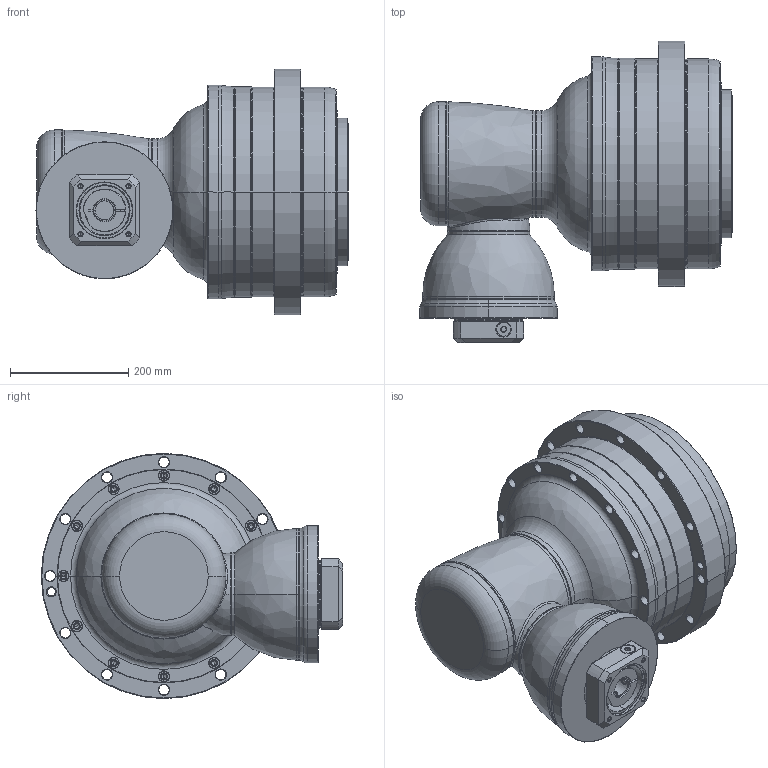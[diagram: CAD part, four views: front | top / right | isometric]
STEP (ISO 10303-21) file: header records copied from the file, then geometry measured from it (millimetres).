
FILE_DESCRIPTION((''),'2;1');
FILE_NAME('AHKA355_3ST_32-P0409700101_ASM','2016-12-06T',('d01943'),(''),'PRO/ENGINEER BY PARAMETRIC TECHNOLOGY CORPORATION, 2008410','PRO/ENGINEER BY PARAMETRIC TECHNOLOGY CORPORATION, 2008410','');
FILE_SCHEMA(('CONFIG_CONTROL_DESIGN'));
Length unit declared in the file: millimetre
Products named in the file (12): P1008600002; P1821100001; P0276100003; P0357100003; P1315600001; P1007600001; P1318600001; P0409700101; P0503700010; P0912600201; 21711418017; AHKA355_3ST_32-P0409700101_ASM
Assembly tree (11 placements, depth 2):
  AHKA355_3ST_32-P0409700101_ASM
    P1008600002
    P1821100001
    P0276100003
    P0357100003
    P1315600001
    P1007600001
    P1318600001
    P0409700101
    P0503700010
    P0912600201
    21711418017
Bounding box: 528 x 510 x 415 mm (x, y, z)
Volume: 36017260.7 mm3; surface area: 1724208.1 mm2
Topology: 12 solids, 12 shells, 950 faces, 2111 edges, 1221 vertices
Faces by surface type: cylinder 332, cone 330, torus 128, plane 123, bspline 35, sphere 2
Entity records: 32463 total; most frequent: CARTESIAN_POINT 10762, DIRECTION 5002, ORIENTED_EDGE 4110, AXIS2_PLACEMENT_3D 2137, EDGE_CURVE 2055, VERTEX_POINT 1221, CIRCLE 1199, EDGE_LOOP 1142
